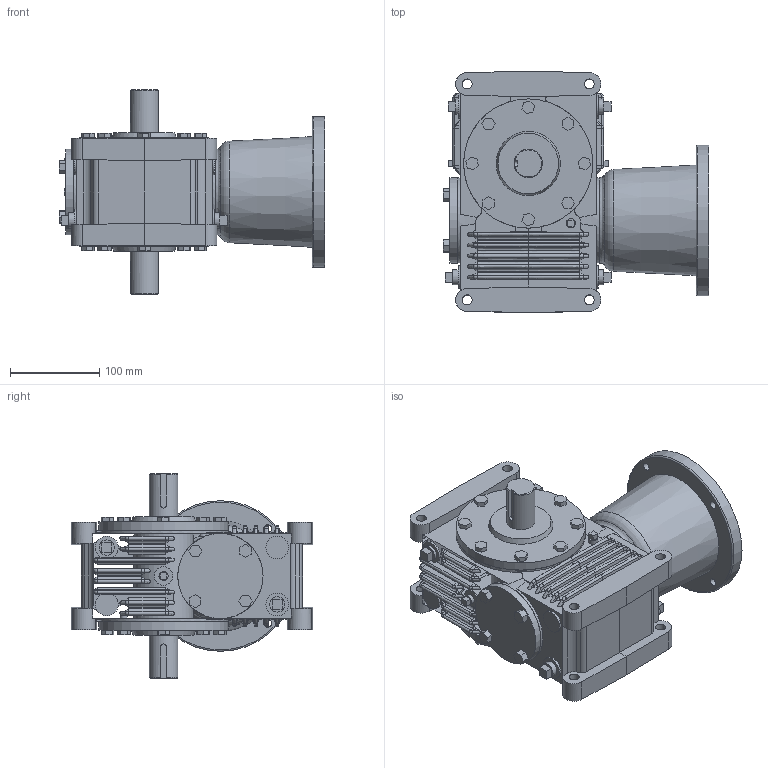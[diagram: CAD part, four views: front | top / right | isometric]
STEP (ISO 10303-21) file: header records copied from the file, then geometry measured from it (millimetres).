
FILE_DESCRIPTION(/* description */ ('Unknown'),/* implementation_level */ '2;1');
FILE_NAME(/* name */ 'HV-25-7C-BNG010',/* time_stamp */ '2024-11-21T09:12:45-05:00',/* author */ ('Unknown'),/* organization */ ('Unknown'),/* preprocessor_version */ 'ST-DEVELOPER v19.4',/* originating_system */ 'Solid Edge',/* authorisation */ 'Unknown');
FILE_SCHEMA (('AUTOMOTIVE_DESIGN {1 0 10303 214 3 1 1}'));
Length unit declared in the file: millimetre
Products named in the file (5): HV-25-7C-BNG010; 25-1-CP; 25-OUTS; 25-MTR45-56C; 25-WCAP
Assembly tree (5 placements, depth 2):
  HV-25-7C-BNG010
    25-1-CP
    25-OUTS  x2
    25-MTR45-56C
    25-WCAP
Bounding box: 297.02 x 269.75 x 228.6 mm (x, y, z)
Volume: 4828959.3 mm3; surface area: 459306.2 mm2
Topology: 5 solids, 5 shells, 1095 faces, 2607 edges, 1591 vertices
Faces by surface type: plane 535, bspline 404, cylinder 142, cone 7, torus 7
Full cylindrical faces by diameter (mm): 0.254 x5, 1.27 x3, 2.54 x1, 7.938 x6, 8.731 x6, 10.287 x4, 11.125 x8, 11.906 x4, 17.043 x3, 17.066 x1, 19.037 x1, 20.574 x2, 22.225 x1, 25.4 x4, 31.737 x2, 44.45 x1, 60.325 x1, 66.675 x1, 67.945 x1, 95.25 x4, 114.338 x1, 144.463 x2, 168.275 x1
Entity records: 37021 total; most frequent: CARTESIAN_POINT 14903, ORIENTED_EDGE 4628, DIRECTION 3664, EDGE_CURVE 2314, VERTEX_POINT 1438, LINE 1324, VECTOR 1324, EDGE_LOOP 1190
